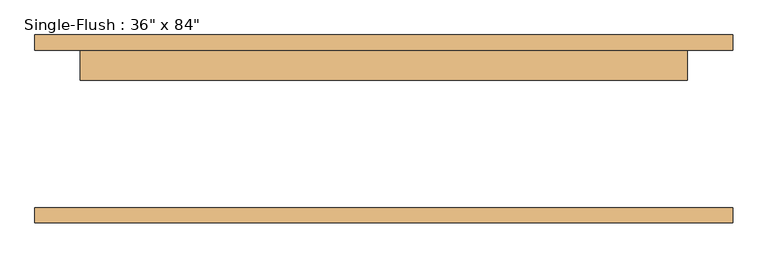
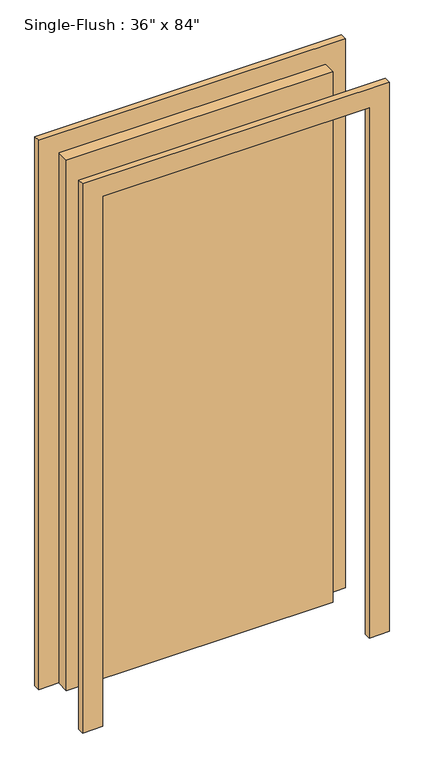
"""IFC4 building model written with IfcOpenShell, lengths in millimetres: door geometry."""

import ifcopenshell
import ifcopenshell.guid

model = None  # the IFC model being written
_history = None  # IfcOwnerHistory: only IFC2X3 demands one
_inside = {}  # id of a spatial element -> (the spatial element, [elements in it])
_under = {}  # id of a project, library or spatial element -> (it, [spatial elements below it])
_declared = {}  # id of a project -> (the project, [libraries it declares])
_typed = {}  # id of a type object -> (the type object, [elements of that type])
_made_of = {}  # id of a material, layer set ... -> (it, [elements and type objects made of it])


def new_model(schema):
    """Start an empty IFC model of exactly this schema.

    Asked for "IFC4X3", IfcOpenShell would pick the latest addendum, in which some entities
    have other attributes; the version numbers below select the first issue.
    IFC2X3 requires an IfcOwnerHistory on every rooted entity: one is made here for all.
    """
    global model, _history
    if schema == "IFC4X3":
        model = ifcopenshell.file(schema_version=(4, 3, 0, 0))
    else:
        model = ifcopenshell.file(schema=schema)
    _inside.clear()
    _under.clear()
    _declared.clear()
    _typed.clear()
    _made_of.clear()
    _history = None
    if model.schema == "IFC2X3":
        org = make("IfcOrganization", Name="unknown")
        user = make(
            "IfcPersonAndOrganization",
            ThePerson=make("IfcPerson", FamilyName="unknown"),
            TheOrganization=org,
        )
        app = make(
            "IfcApplication",
            ApplicationDeveloper=org,
            Version="unknown",
            ApplicationFullName="unknown",
            ApplicationIdentifier="unknown",
        )
        _history = make(
            "IfcOwnerHistory",
            OwningUser=user,
            OwningApplication=app,
            ChangeAction="ADDED",
            CreationDate=0,
        )
    return model


def make(cls, **values):
    """One entity of the class cls with the attributes given. An attribute that is None is left unset."""
    return model.create_entity(
        cls, **{name: value for name, value in values.items() if value is not None}
    )


def rooted(cls, **values):
    """An entity with a GlobalId (a new one), such as an element, a storey or a relation."""
    return make(cls, GlobalId=ifcopenshell.guid.new(), OwnerHistory=_history, **values)


def si_unit(unit_type, name, prefix=None):
    """IfcSIUnit, for example si_unit("LENGTHUNIT", "METRE", prefix="MILLI")."""
    return make("IfcSIUnit", UnitType=unit_type, Prefix=prefix, Name=name)


def assignment(units):
    """IfcUnitAssignment: the units of a project."""
    return None if units is None else make("IfcUnitAssignment", Units=units)


def point(xyz):
    """IfcCartesianPoint."""
    return None if xyz is None else make("IfcCartesianPoint", Coordinates=xyz)


def direction(xyz):
    """IfcDirection."""
    return None if xyz is None else make("IfcDirection", DirectionRatios=xyz)


def frame(location, z_axis=None, x_axis=None):
    """IfcAxis2Placement3D, a coordinate frame: its origin and axes. An axis left out is left unset."""
    return make(
        "IfcAxis2Placement3D",
        Location=point(location),
        Axis=direction(z_axis),
        RefDirection=direction(x_axis),
    )


def origin():
    """The frame at (0, 0, 0) with its axes left unset."""
    return frame((0.0, 0.0, 0.0))


def origin_with_axes():
    """The frame at (0, 0, 0) with the z axis (0, 0, 1) and the x axis (1, 0, 0) written out."""
    return frame((0.0, 0.0, 0.0), z_axis=(0.0, 0.0, 1.0), x_axis=(1.0, 0.0, 0.0))


def place(relative_to, where):
    """IfcLocalPlacement: puts the frame where relative to a parent placement (None: the world)."""
    return make(
        "IfcLocalPlacement", PlacementRelTo=relative_to, RelativePlacement=where
    )


def context(
    kind, dimensions, precision=None, world=None, true_north=None, identifier=None
):
    """IfcGeometricRepresentationContext, for example the 3D "Model" context."""
    return make(
        "IfcGeometricRepresentationContext",
        ContextIdentifier=identifier,
        ContextType=kind,
        CoordinateSpaceDimension=dimensions,
        Precision=precision,
        WorldCoordinateSystem=world,
        TrueNorth=true_north,
    )


def project(units=None, contexts=None):
    """IfcProject with its units and contexts."""
    return rooted(
        "IfcProject",
        Name="project",
        RepresentationContexts=contexts,
        UnitsInContext=assignment(units),
    )


def spatial(cls, under=None, at=None, **own):
    """A site, building, storey or space (cls), placed at a placement, below another one or the project."""
    s = rooted(cls, ObjectPlacement=at, **own)
    if under is not None:
        _under.setdefault(under.id(), (under, []))[1].append(s)
    return s


def polyline(points):
    """IfcPolyline through the points."""
    return make("IfcPolyline", Points=[point(p) for p in points])


def outline(outer, holes=None, kind="AREA"):
    """IfcArbitraryClosedProfileDef: a profile drawn as a closed curve; with holes, ...WithVoids."""
    if holes is None:
        return make("IfcArbitraryClosedProfileDef", ProfileType=kind, OuterCurve=outer)
    return make(
        "IfcArbitraryProfileDefWithVoids",
        ProfileType=kind,
        OuterCurve=outer,
        InnerCurves=holes,
    )


def extrude(swept, where, along, depth):
    """IfcExtrudedAreaSolid: the profile swept, set in the frame where, extruded along a direction by depth."""
    return make(
        "IfcExtrudedAreaSolid",
        SweptArea=swept,
        Position=where,
        ExtrudedDirection=direction(along),
        Depth=depth,
    )


def shape(context_of_items, identifier, shape_type, items):
    """IfcShapeRepresentation: the items that make up one representation, for example the "Body"."""
    return make(
        "IfcShapeRepresentation",
        ContextOfItems=context_of_items,
        RepresentationIdentifier=identifier,
        RepresentationType=shape_type,
        Items=items,
    )


def source(mapping_origin, context_of_items, identifier, shape_type, items):
    """IfcRepresentationMap: a shape defined once, which mapped items show again and again."""
    return make(
        "IfcRepresentationMap",
        MappingOrigin=mapping_origin,
        MappedRepresentation=shape(context_of_items, identifier, shape_type, items),
    )


def transform(
    local_origin,
    x_axis=None,
    y_axis=None,
    z_axis=None,
    scale=None,
    scale2=None,
    scale3=None,
    uniform=True,
):
    """IfcCartesianTransformationOperator3D, or its non-uniform kind. x_axis, y_axis, z_axis: its Axis1, 2, 3."""
    if uniform:
        return make(
            "IfcCartesianTransformationOperator3D",
            Axis1=direction(x_axis),
            Axis2=direction(y_axis),
            LocalOrigin=point(local_origin),
            Scale=scale,
            Axis3=direction(z_axis),
        )
    return make(
        "IfcCartesianTransformationOperator3DnonUniform",
        Axis1=direction(x_axis),
        Axis2=direction(y_axis),
        LocalOrigin=point(local_origin),
        Scale=scale,
        Axis3=direction(z_axis),
        Scale2=scale2,
        Scale3=scale3,
    )


def mapped(mapping_source, mapping_target):
    """IfcMappedItem: shows the shape of a source again, moved by a transform."""
    return make(
        "IfcMappedItem", MappingSource=mapping_source, MappingTarget=mapping_target
    )


def made_of(thing, what):
    """Note that an element or type object is made of a material, layer set ...; save() writes the relation."""
    if what is not None:
        _made_of.setdefault(what.id(), (what, []))[1].append(thing)
    return thing


def element(
    cls,
    number,
    at=None,
    inside=None,
    cuts=None,
    type_object=None,
    material=None,
    context=None,
    identifier="Body",
    shape_type=None,
    held_by="IfcProductDefinitionShape",
    body=None,
    shapes=None,
    **own,
):
    """One element of the class cls, such as IfcWall. Its Tag is "e" and its number.

    at: its placement. inside: the storey or other place that contains it. cuts: it is an
    opening in that element (IfcRelVoidsElement). A single representation is given by context,
    identifier, shape_type and body (its items); several are given by shapes. held_by: the class
    of the entity that holds the representations. save() writes the other relations.
    """
    e = rooted(cls, Tag="e%d" % number, ObjectPlacement=at, **own)
    if body is not None:
        shapes = [shape(context, identifier, shape_type, body)]
    if shapes is not None:
        e.Representation = make(held_by, Representations=shapes)
    if inside is not None:
        _inside.setdefault(inside.id(), (inside, []))[1].append(e)
    if cuts is not None:
        rooted(
            "IfcRelVoidsElement", RelatingBuildingElement=cuts, RelatedOpeningElement=e
        )
    if type_object is not None:
        _typed.setdefault(type_object.id(), (type_object, []))[1].append(e)
    return made_of(e, material)


def aggregate(whole, parts):
    """IfcRelAggregates: a whole, such as a stair, and the parts it consists of."""
    return rooted("IfcRelAggregates", RelatingObject=whole, RelatedObjects=parts)


def save(model, path):
    """Write the relations noted so far, then the file.

    IfcRelAggregates (storeys below a building ...), IfcRelContainedInSpatialStructure (elements
    in a storey), IfcRelDefinesByType, IfcRelAssociatesMaterial and IfcRelDeclares: one each for
    every whole, place, type object, material and project.
    """
    for whole, parts in _under.values():
        aggregate(whole, parts)
    for where, things in _inside.values():
        rooted(
            "IfcRelContainedInSpatialStructure",
            RelatedElements=things,
            RelatingStructure=where,
        )
    for kind, things in _typed.values():
        rooted("IfcRelDefinesByType", RelatedObjects=things, RelatingType=kind)
    for what, things in _made_of.values():
        rooted("IfcRelAssociatesMaterial", RelatedObjects=things, RelatingMaterial=what)
    for by, libraries in _declared.values():
        rooted("IfcRelDeclares", RelatingContext=by, RelatedDefinitions=libraries)
    model.write(path)


def door_4e5f50bf(model_context):
    return source(origin(), model_context, "Body", "SweptSolid", [
        extrude(outline(polyline([(2209.8, -584.2), (0.0, -584.2), (0.0, -508.0), (2133.6, -508.0), (2133.6, 508.0), (0.0, 508.0), (0.0, 584.2), (2209.8, 584.2), (2209.8, -584.2)])), frame((0.0, 131.7625, 0.0), z_axis=(0.0, 1.0, 0.0), x_axis=(0.0, 0.0, 1.0)), (0.0, 0.0, 1.0), 25.4),
        extrude(outline(polyline([(2209.8, 584.2), (2209.8, -584.2), (0.0, -584.2), (0.0, -508.0), (2133.6, -508.0), (2133.6, 508.0), (0.0, 508.0), (0.0, 584.2), (2209.8, 584.2)])), frame((0.0, -157.1625, 0.0), z_axis=(0.0, 1.0, 0.0), x_axis=(0.0, 0.0, 1.0)), (0.0, 0.0, 1.0), 25.4),
        extrude(outline(polyline([(508.0, 80.9625), (-508.0, 80.9625), (-508.0, 131.7625), (508.0, 131.7625), (508.0, 80.9625)])), origin_with_axes(), (0.0, 0.0, 1.0), 2133.6),
    ])


if __name__ == "__main__":
    model = new_model("IFC4")
    model_context = context("Model", 3, world=origin())
    ifc_project = project(units=[si_unit("LENGTHUNIT", "METRE", prefix="MILLI")], contexts=[model_context])
    site = spatial("IfcSite", under=ifc_project)
    building = spatial("IfcBuilding", under=site)
    placement = place(None, origin())
    door_shape = door_4e5f50bf(model_context)
    element("IfcDoor", 1, ObjectType="Single-Flush : 36\" x 84\"", at=placement, inside=building, context=model_context, shape_type="MappedRepresentation", body=[
        mapped(door_shape, transform((0.0, 0.0, 0.0), x_axis=(1.0, 0.0, 0.0), y_axis=(0.0, 1.0, 0.0), z_axis=(0.0, 0.0, 1.0))),
    ])
    save(model, "model.ifc")
